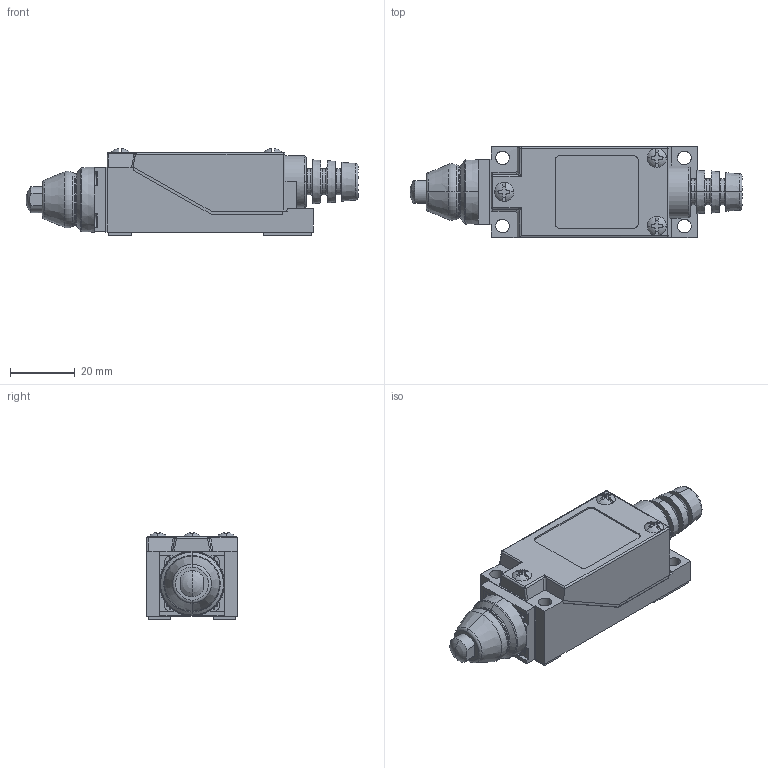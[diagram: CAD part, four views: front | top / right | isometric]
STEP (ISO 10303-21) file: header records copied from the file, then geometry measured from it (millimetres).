
FILE_DESCRIPTION(('STEP AP203'), '1');
FILE_NAME('Korpus-4.stp', '2014-07-04T09:54:21', ('UNSPECIFIED'), ('UNSPECIFIED'), 'ASCON STEP Converter 1.0', 'Kompas 3D', '');
FILE_SCHEMA(('CONFIG_CONTROL_DESIGN'));
Length unit declared in the file: millimetre
Bounding box: 102.25 x 28 x 26.71 mm (x, y, z)
Surface area: 11511.6 mm2 (no closed solid volume)
Topology: 0 solids, 1 shells, 352 faces, 903 edges, 567 vertices
Faces by surface type: plane 231, cylinder 56, torus 26, cone 24, sphere 13, bspline 2
Full cylindrical faces by diameter (mm): 16 x1
Entity records: 10765 total; most frequent: CARTESIAN_POINT 2401, ORIENTED_EDGE 1785, DIRECTION 1659, EDGE_CURVE 894, LINE 593, VECTOR 593, VERTEX_POINT 567, AXIS2_PLACEMENT_3D 533
